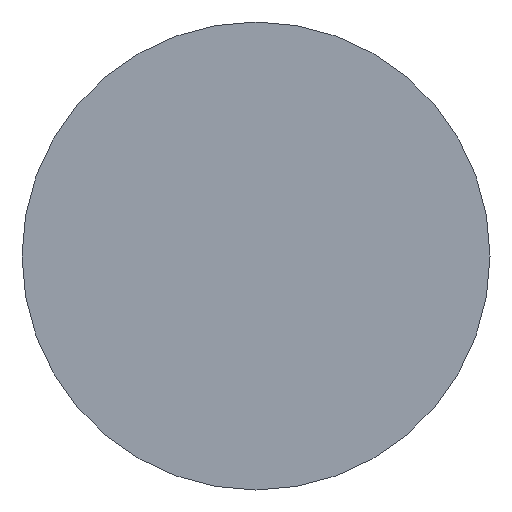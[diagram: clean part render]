
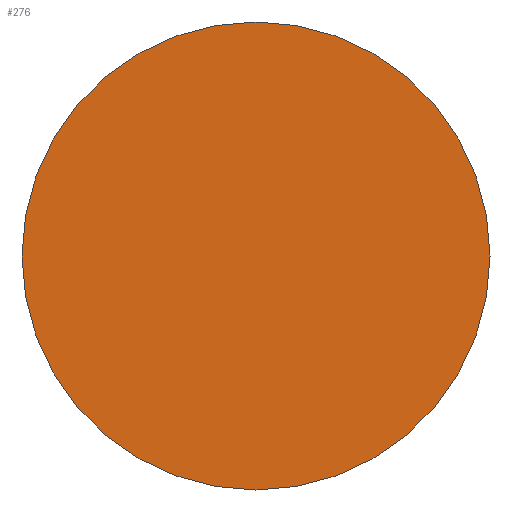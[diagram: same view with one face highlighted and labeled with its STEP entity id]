
A CAD part, left-side view. The second image highlights one B-rep face of the part: STEP entity #276.
In plain terms, the highlighted planar face has unit normal (-1, 0, 0).
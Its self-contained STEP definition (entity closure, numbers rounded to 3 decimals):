
#31 = DIRECTION ( 'NONE',  ( 0., 0., 1. ) ) ;
#71 = FACE_OUTER_BOUND ( 'NONE', #82, .T. ) ;
#80 = PLANE ( 'NONE',  #286 ) ;
#82 = EDGE_LOOP ( 'NONE', ( #121, #165 ) ) ;
#104 = CARTESIAN_POINT ( 'NONE',  ( 0., 0., 0. ) ) ;
#119 = DIRECTION ( 'NONE',  ( 1., 0., 0. ) ) ;
#121 = ORIENTED_EDGE ( 'NONE', *, *, #270, .T. ) ;
#129 = AXIS2_PLACEMENT_3D ( 'NONE', #144, #256, #287 ) ;
#143 = EDGE_CURVE ( 'NONE', #279, #211, #180, .T. ) ;
#144 = CARTESIAN_POINT ( 'NONE',  ( 0., 0., 0. ) ) ;
#165 = ORIENTED_EDGE ( 'NONE', *, *, #143, .T. ) ;
#167 = DIRECTION ( 'NONE',  ( -1., 0., 0. ) ) ;
#170 = CARTESIAN_POINT ( 'NONE',  ( 0., 0., 0. ) ) ;
#180 = CIRCLE ( 'NONE', #258, 9. ) ;
#211 = VERTEX_POINT ( 'NONE', #247 ) ;
#235 = CARTESIAN_POINT ( 'NONE',  ( 0., 0., -9. ) ) ;
#247 = CARTESIAN_POINT ( 'NONE',  ( 0., 0., 9. ) ) ;
#256 = DIRECTION ( 'NONE',  ( -1., 0., 0. ) ) ;
#258 = AXIS2_PLACEMENT_3D ( 'NONE', #170, #167, #31 ) ;
#261 = CIRCLE ( 'NONE', #129, 9. ) ;
#264 = DIRECTION ( 'NONE',  ( 0., 0., -1. ) ) ;
#270 = EDGE_CURVE ( 'NONE', #211, #279, #261, .T. ) ;
#276 = ADVANCED_FACE ( 'NONE', ( #71 ), #80, .F. ) ;
#279 = VERTEX_POINT ( 'NONE', #235 ) ;
#286 = AXIS2_PLACEMENT_3D ( 'NONE', #104, #119, #264 ) ;
#287 = DIRECTION ( 'NONE',  ( 0., 0., 1. ) ) ;
